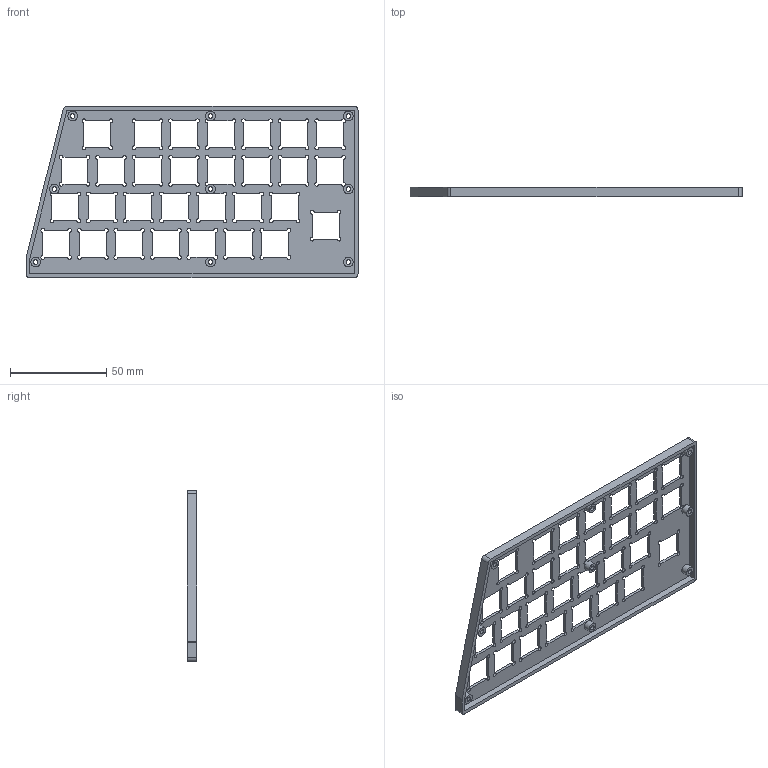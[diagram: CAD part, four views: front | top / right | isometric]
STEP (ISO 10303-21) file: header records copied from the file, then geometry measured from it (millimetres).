
FILE_DESCRIPTION(/* description */ ('','CAx-IF Rec.Pracs.---Representation and Presentation of Product Manufacturing Information (PMI)---4.0---2014-10-13'),/* implementation_level */ '2;1');
FILE_NAME(/* name */ 'cradoll_keyboard_case_top v7.step',/* time_stamp */ '2025-03-21T12:06:55+09:00',/* author */ (''),/* organization */ (''),/* preprocessor_version */ 'ST-DEVELOPER v20',/* originating_system */ 'Autodesk Translation Framework v13.20.0.188',/* authorisation */ '');
FILE_SCHEMA (('AP242_MANAGED_MODEL_BASED_3D_ENGINEERING_MIM_LF { 1 0 10303 442 1 1 4 }'));
Length unit declared in the file: millimetre
Products named in the file (1): cradoll_keyboard_case_top
Bounding box: 172.75 x 5 x 89 mm (x, y, z)
Volume: 16498.1 mm3; surface area: 24834.9 mm2
Topology: 1 solids, 1 shells, 296 faces, 855 edges, 566 vertices
Faces by surface type: cylinder 144, plane 143, cone 9
Full cylindrical faces by diameter (mm): 2.4 x9, 5 x9
Entity records: 10005 total; most frequent: DIRECTION 1755, CARTESIAN_POINT 1718, ORIENTED_EDGE 1710, EDGE_CURVE 855, AXIS2_PLACEMENT_3D 603, VERTEX_POINT 566, LINE 549, VECTOR 549
